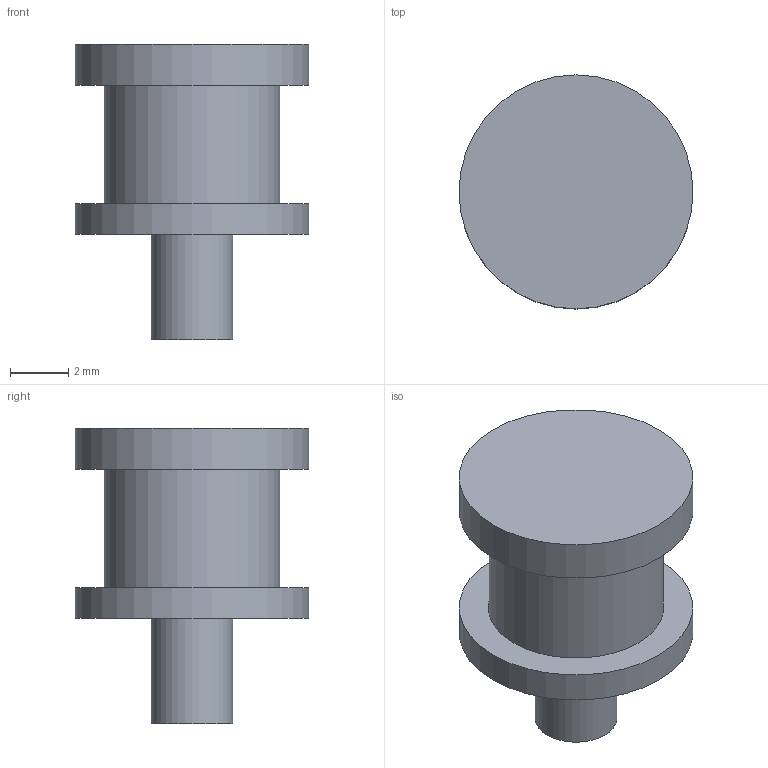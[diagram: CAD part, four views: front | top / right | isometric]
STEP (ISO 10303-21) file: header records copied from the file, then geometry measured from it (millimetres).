
FILE_DESCRIPTION(('Open CASCADE Model'),'2;1');
FILE_NAME('Open CASCADE Shape Model','2026-11-19T15:07:55',('Author'),( 'Open CASCADE'),'Open CASCADE STEP processor 8.0','Open CASCADE 8.0' ,'Unknown');
FILE_SCHEMA(('AUTOMOTIVE_DESIGN { 1 0 10303 214 1 1 1 1 }'));
Length unit declared in the file: millimetre
Products named in the file (1): Open CASCADE STEP translator 8.0 4
Bounding box: 8 x 8 x 10.1 mm (x, y, z)
Volume: 259.8 mm3; surface area: 314.1 mm2
Topology: 1 solids, 1 shells, 10 faces, 13 edges, 9 vertices
Faces by surface type: plane 6, cylinder 4
Full cylindrical faces by diameter (mm): 2.8 x1, 6 x1, 8 x2
Entity records: 393 total; most frequent: DIRECTION 70, CARTESIAN_POINT 59, ORIENTED_EDGE 26, PCURVE 26, DEFINITIONAL_REPRESENTATION 26, AXIS2_PLACEMENT_3D 20, LINE 20, VECTOR 20
